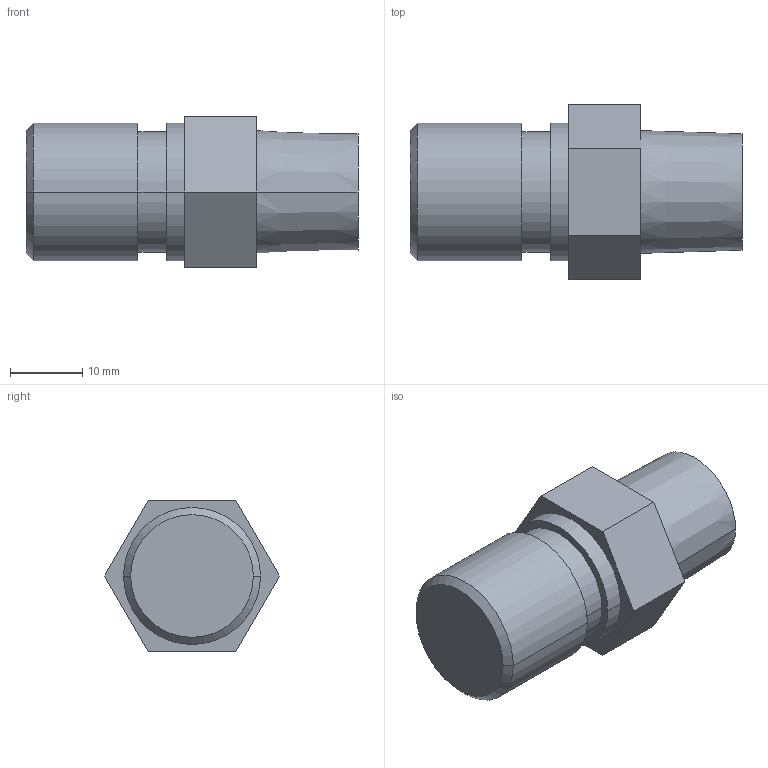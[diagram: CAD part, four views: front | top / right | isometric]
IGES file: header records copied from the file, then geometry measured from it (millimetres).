
Global section: file name: No Iges File Name specified; native system: Autodesk Inventor 2009; preprocessor: AutoDesk Inventor Iges Exporter R2009; author: y-shimohigashi; date: 20080704.134403; units: millimetre
Bounding box: 46 x 24.25 x 21 mm (x, y, z)
Volume: 12787 mm3; surface area: 3574.3 mm2
Topology: 1 solids, 1 shells, 22 faces, 46 edges, 30 vertices
Faces by surface type: plane 12, cylinder 6, cone 4
